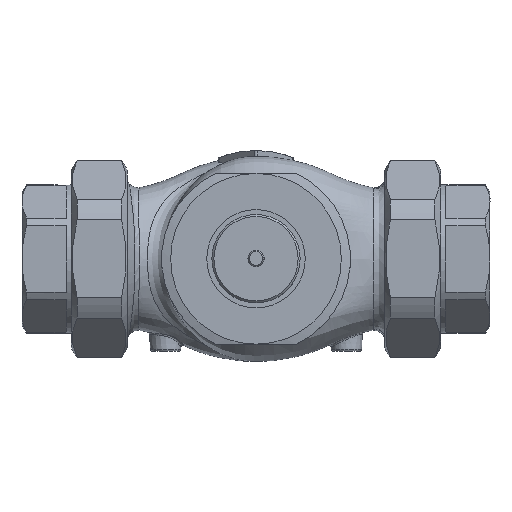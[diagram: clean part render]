
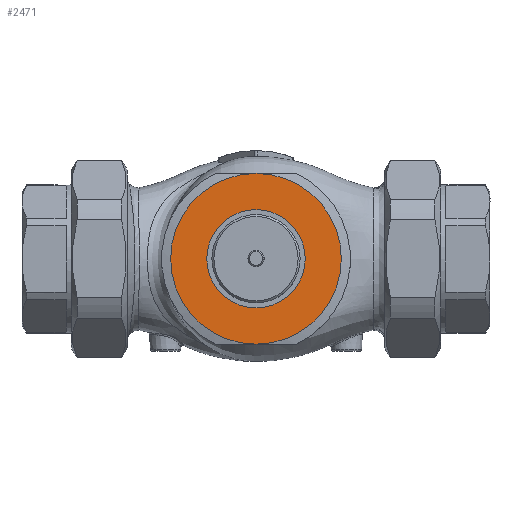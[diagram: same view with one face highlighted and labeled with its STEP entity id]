
A CAD part, top view. The second image highlights one B-rep face of the part: STEP entity #2471.
In plain terms, the highlighted planar face has unit normal (0, 0, 1).
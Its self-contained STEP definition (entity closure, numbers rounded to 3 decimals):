
#2471=ADVANCED_FACE('',(#3211,#3212),#2956,.T.);
#2956=PLANE('',#9522);
#3211=FACE_BOUND('',#3498,.T.);
#3212=FACE_BOUND('',#3499,.T.);
#3498=EDGE_LOOP('',(#4514));
#3499=EDGE_LOOP('',(#4515,#4516));
#4514=ORIENTED_EDGE('',*,*,#7675,.F.);
#4515=ORIENTED_EDGE('',*,*,#7713,.T.);
#4516=ORIENTED_EDGE('',*,*,#7704,.T.);
#6764=VERTEX_POINT('',#22579);
#6787=VERTEX_POINT('',#22653);
#6789=VERTEX_POINT('',#22660);
#7675=EDGE_CURVE('',#6764,#6764,#8852,.T.);
#7704=EDGE_CURVE('',#6787,#6789,#8867,.T.);
#7713=EDGE_CURVE('',#6789,#6787,#8871,.T.);
#8852=CIRCLE('',#9467,19.);
#8867=CIRCLE('',#9508,42.5);
#8871=CIRCLE('',#9515,42.5);
#9467=AXIS2_PLACEMENT_3D('',#22578,#10728,#10729);
#9508=AXIS2_PLACEMENT_3D('',#22661,#10818,#10819);
#9515=AXIS2_PLACEMENT_3D('',#22688,#10834,#10835);
#9522=AXIS2_PLACEMENT_3D('',#22711,#10850,#10851);
#10728=DIRECTION('',(0.,0.,1.));
#10729=DIRECTION('',(-1.,0.,0.));
#10818=DIRECTION('',(0.,0.,1.));
#10819=DIRECTION('',(1.,0.,0.));
#10834=DIRECTION('',(0.,0.,1.));
#10835=DIRECTION('',(1.,0.,0.));
#10850=DIRECTION('',(0.,0.,1.));
#10851=DIRECTION('',(1.,0.,0.));
#22578=CARTESIAN_POINT('',(0.,0.,67.));
#22579=CARTESIAN_POINT('',(-19.,0.,67.));
#22653=CARTESIAN_POINT('',(0.,42.5,67.));
#22660=CARTESIAN_POINT('',(0.,-42.5,67.));
#22661=CARTESIAN_POINT('',(0.,0.,67.));
#22688=CARTESIAN_POINT('',(0.,0.,67.));
#22711=CARTESIAN_POINT('',(30.5,0.,67.));
